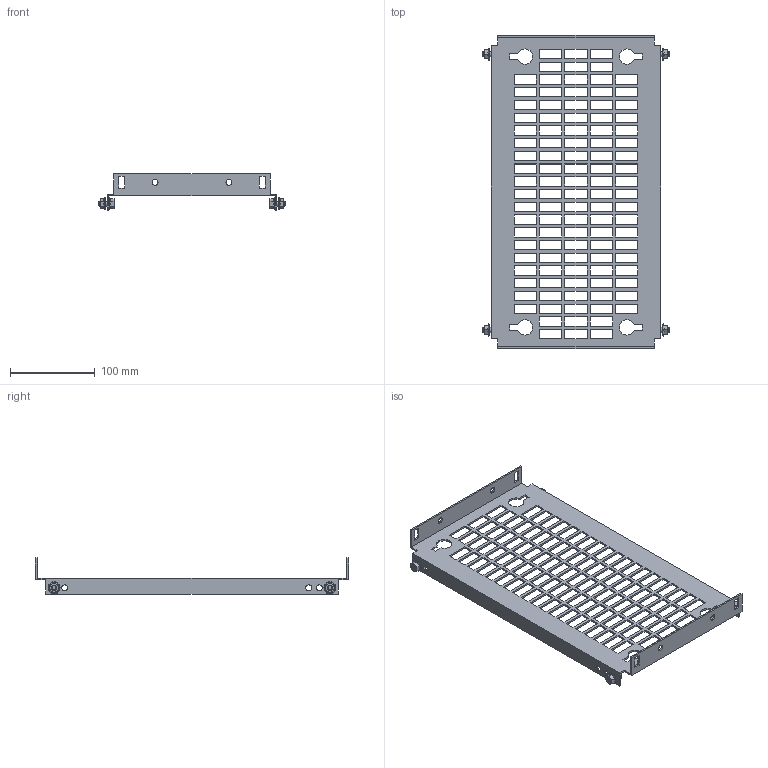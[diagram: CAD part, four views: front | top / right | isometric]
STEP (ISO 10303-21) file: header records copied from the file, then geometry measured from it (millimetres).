
FILE_DESCRIPTION(('Open CASCADE Model'),'2;1');
FILE_NAME('Open CASCADE Shape Model','2025-02-19T16:48:06',('Author'),( 'Open CASCADE'),'Open CASCADE STEP processor 7.8','Open CASCADE 7.8' ,'Unknown');
FILE_SCHEMA(('AUTOMOTIVE_DESIGN { 1 0 10303 214 1 1 1 1 }'));
Length unit declared in the file: millimetre
Products named in the file (4): Compound1; Solid1; Solid2; Solid3
Assembly tree (9 placements, depth 2):
  Compound1
    Solid1
    Solid2  x4
    Solid3  x4
Bounding box: 220 x 369 x 43 mm (x, y, z)
Volume: 128296.3 mm3; surface area: 147463.8 mm2
Topology: 9 solids, 9 shells, 720 faces, 1989 edges, 1291 vertices
Faces by surface type: plane 562, cone 68, bspline 48, cylinder 30, torus 12
Full cylindrical faces by diameter (mm): 5 x4, 6 x8, 7 x14
Entity records: 19342 total; most frequent: CARTESIAN_POINT 3911, ORIENTED_EDGE 3300, DIRECTION 2762, EDGE_CURVE 1650, LINE 1492, VECTOR 1492, VERTEX_POINT 1093, FACE_BOUND 825
